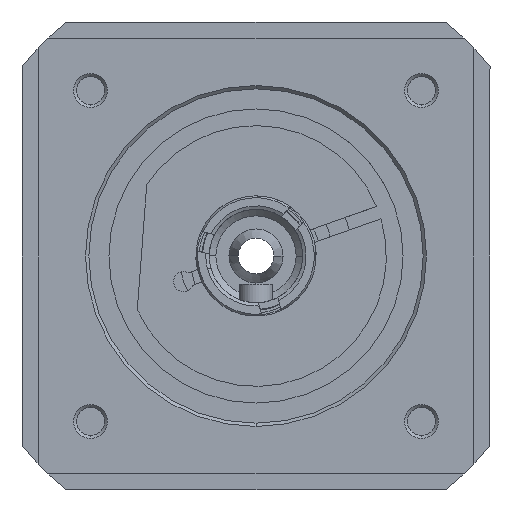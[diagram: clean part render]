
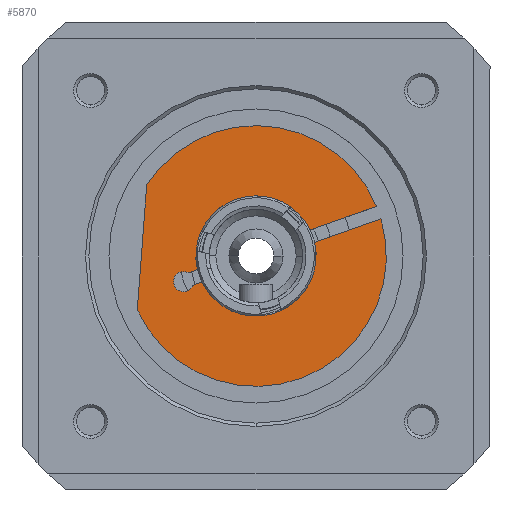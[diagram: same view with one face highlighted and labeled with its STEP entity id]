
A CAD part, front view. The second image highlights one B-rep face of the part: STEP entity #5870.
In plain terms, the highlighted planar face has unit normal (0, -1, 0).
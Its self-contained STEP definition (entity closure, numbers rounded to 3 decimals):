
#121 = ORIENTED_EDGE ( 'NONE', *, *, #6568, .T. ) ;
#208 = CARTESIAN_POINT ( 'NONE',  ( 0., 11.2, 0. ) ) ;
#224 = VERTEX_POINT ( 'NONE', #649 ) ;
#242 = AXIS2_PLACEMENT_3D ( 'NONE', #2686, #7014, #3331 ) ;
#314 = VECTOR ( 'NONE', #6925, 1000. ) ;
#318 = DIRECTION ( 'NONE',  ( 0.943, 0., 0.333 ) ) ;
#462 = DIRECTION ( 'NONE',  ( -0.333, 0., 0.943 ) ) ;
#567 = CARTESIAN_POINT ( 'NONE',  ( -10.344, 11.2, -5.244 ) ) ;
#630 = VERTEX_POINT ( 'NONE', #1442 ) ;
#649 = CARTESIAN_POINT ( 'NONE',  ( -2.997, 11.2, 8.486 ) ) ;
#929 = EDGE_CURVE ( 'NONE', #224, #7308, #2260, .T. ) ;
#938 = ORIENTED_EDGE ( 'NONE', *, *, #4532, .F. ) ;
#1123 = ORIENTED_EDGE ( 'NONE', *, *, #6256, .T. ) ;
#1134 = VERTEX_POINT ( 'NONE', #1387 ) ;
#1146 = CARTESIAN_POINT ( 'NONE',  ( 0., 11.2, 0. ) ) ;
#1199 = CIRCLE ( 'NONE', #5855, 19.5 ) ;
#1277 = VERTEX_POINT ( 'NONE', #3245 ) ;
#1345 = CIRCLE ( 'NONE', #5192, 9. ) ;
#1387 = CARTESIAN_POINT ( 'NONE',  ( 18.03, 11.2, 7.428 ) ) ;
#1395 = ORIENTED_EDGE ( 'NONE', *, *, #7410, .T. ) ;
#1412 = ORIENTED_EDGE ( 'NONE', *, *, #929, .T. ) ;
#1442 = CARTESIAN_POINT ( 'NONE',  ( -11.343, 11.2, -2.415 ) ) ;
#1561 = CARTESIAN_POINT ( 'NONE',  ( 0., 11.2, 0. ) ) ;
#1580 = CARTESIAN_POINT ( 'NONE',  ( 8.101, 11.2, 3.922 ) ) ;
#1584 = ORIENTED_EDGE ( 'NONE', *, *, #3154, .T. ) ;
#1692 = CARTESIAN_POINT ( 'NONE',  ( -9.456, 11.2, -4.4 ) ) ;
#1765 = DIRECTION ( 'NONE',  ( -0.333, 0., 0.943 ) ) ;
#1908 = CARTESIAN_POINT ( 'NONE',  ( 0., 11.2, 0. ) ) ;
#1990 = CARTESIAN_POINT ( 'NONE',  ( -10.122, 11.2, -2.515 ) ) ;
#2118 = CARTESIAN_POINT ( 'NONE',  ( -0.333, 11.2, 0.943 ) ) ;
#2172 = DIRECTION ( 'NONE',  ( -0.333, 0., 0.943 ) ) ;
#2196 = AXIS2_PLACEMENT_3D ( 'NONE', #208, #6377, #7053 ) ;
#2260 = CIRCLE ( 'NONE', #2196, 9. ) ;
#2375 = AXIS2_PLACEMENT_3D ( 'NONE', #3053, #7324, #3682 ) ;
#2519 = DIRECTION ( 'NONE',  ( -0.333, 0., 0.943 ) ) ;
#2686 = CARTESIAN_POINT ( 'NONE',  ( -10.844, 11.2, -3.83 ) ) ;
#3053 = CARTESIAN_POINT ( 'NONE',  ( -10.844, 11.2, -3.83 ) ) ;
#3061 = VECTOR ( 'NONE', #5917, 1000. ) ;
#3154 = EDGE_CURVE ( 'NONE', #6153, #5551, #5300, .T. ) ;
#3245 = CARTESIAN_POINT ( 'NONE',  ( 18.696, 11.2, 5.543 ) ) ;
#3276 = CARTESIAN_POINT ( 'NONE',  ( -8.767, 11.2, -2.036 ) ) ;
#3296 = ORIENTED_EDGE ( 'NONE', *, *, #6241, .F. ) ;
#3331 = DIRECTION ( 'NONE',  ( -0.333, 0., 0.943 ) ) ;
#3355 = CARTESIAN_POINT ( 'NONE',  ( 0., 11.2, 0. ) ) ;
#3392 = CIRCLE ( 'NONE', #7251, 19.5 ) ;
#3401 = DIRECTION ( 'NONE',  ( 0., 1., 0. ) ) ;
#3518 = VERTEX_POINT ( 'NONE', #7461 ) ;
#3651 = VECTOR ( 'NONE', #318, 1000. ) ;
#3663 = CARTESIAN_POINT ( 'NONE',  ( -16.34, 11.2, 10.641 ) ) ;
#3682 = DIRECTION ( 'NONE',  ( -0.333, 0., 0.943 ) ) ;
#3714 = ORIENTED_EDGE ( 'NONE', *, *, #4754, .F. ) ;
#3768 = LINE ( 'NONE', #6350, #314 ) ;
#3882 = VERTEX_POINT ( 'NONE', #6706 ) ;
#3915 = VERTEX_POINT ( 'NONE', #3663 ) ;
#3980 = DIRECTION ( 'NONE',  ( -0.333, 0., 0.943 ) ) ;
#4124 = FACE_OUTER_BOUND ( 'NONE', #4985, .T. ) ;
#4147 = DIRECTION ( 'NONE',  ( 0., 1., 0. ) ) ;
#4188 = LINE ( 'NONE', #7546, #5629 ) ;
#4368 = VERTEX_POINT ( 'NONE', #1692 ) ;
#4385 = VECTOR ( 'NONE', #5182, 1000. ) ;
#4532 = EDGE_CURVE ( 'NONE', #1277, #3882, #1199, .T. ) ;
#4592 = AXIS2_PLACEMENT_3D ( 'NONE', #7085, #3401, #7686 ) ;
#4623 = ORIENTED_EDGE ( 'NONE', *, *, #5658, .F. ) ;
#4729 = LINE ( 'NONE', #7108, #3061 ) ;
#4754 = EDGE_CURVE ( 'NONE', #1134, #7308, #4188, .T. ) ;
#4951 = ORIENTED_EDGE ( 'NONE', *, *, #5105, .F. ) ;
#4985 = EDGE_LOOP ( 'NONE', ( #4951, #7513, #938, #3296, #7519, #4623, #5630, #1123, #121, #1584, #1395, #1412, #3714 ) ) ;
#5105 = EDGE_CURVE ( 'NONE', #3915, #1134, #3392, .T. ) ;
#5182 = DIRECTION ( 'NONE',  ( 0.943, 0., 0.333 ) ) ;
#5192 = AXIS2_PLACEMENT_3D ( 'NONE', #1908, #6246, #2519 ) ;
#5236 = VERTEX_POINT ( 'NONE', #7128 ) ;
#5300 = LINE ( 'NONE', #2118, #3651 ) ;
#5329 = VERTEX_POINT ( 'NONE', #567 ) ;
#5427 = EDGE_CURVE ( 'NONE', #5236, #3518, #1345, .T. ) ;
#5472 = DIRECTION ( 'NONE',  ( 0., 1., 0. ) ) ;
#5551 = VERTEX_POINT ( 'NONE', #3276 ) ;
#5629 = VECTOR ( 'NONE', #6357, 1000. ) ;
#5630 = ORIENTED_EDGE ( 'NONE', *, *, #6846, .T. ) ;
#5658 = EDGE_CURVE ( 'NONE', #4368, #3518, #3768, .T. ) ;
#5855 = AXIS2_PLACEMENT_3D ( 'NONE', #1146, #5472, #1765 ) ;
#5870 = ADVANCED_FACE ( 'NONE', ( #4124 ), #7074, .F. ) ;
#5888 = DIRECTION ( 'NONE',  ( 0., 1., 0. ) ) ;
#5917 = DIRECTION ( 'NONE',  ( -0.076, 0., -0.997 ) ) ;
#6037 = CIRCLE ( 'NONE', #242, 1.5 ) ;
#6085 = CIRCLE ( 'NONE', #6455, 9. ) ;
#6153 = VERTEX_POINT ( 'NONE', #1990 ) ;
#6232 = LINE ( 'NONE', #6986, #4385 ) ;
#6241 = EDGE_CURVE ( 'NONE', #5236, #1277, #6232, .T. ) ;
#6246 = DIRECTION ( 'NONE',  ( 0., 1., 0. ) ) ;
#6256 = EDGE_CURVE ( 'NONE', #5329, #630, #6037, .T. ) ;
#6350 = CARTESIAN_POINT ( 'NONE',  ( 0.333, 11.2, -0.943 ) ) ;
#6357 = DIRECTION ( 'NONE',  ( -0.943, 0., -0.333 ) ) ;
#6377 = DIRECTION ( 'NONE',  ( 0., 1., 0. ) ) ;
#6455 = AXIS2_PLACEMENT_3D ( 'NONE', #7794, #4147, #462 ) ;
#6568 = EDGE_CURVE ( 'NONE', #630, #6153, #7722, .T. ) ;
#6573 = CIRCLE ( 'NONE', #4592, 1.5 ) ;
#6706 = CARTESIAN_POINT ( 'NONE',  ( -17.761, 11.2, -8.049 ) ) ;
#6846 = EDGE_CURVE ( 'NONE', #4368, #5329, #6573, .T. ) ;
#6925 = DIRECTION ( 'NONE',  ( 0.943, 0., 0.333 ) ) ;
#6986 = CARTESIAN_POINT ( 'NONE',  ( 0.333, 11.2, -0.943 ) ) ;
#7014 = DIRECTION ( 'NONE',  ( 0., 1., 0. ) ) ;
#7053 = DIRECTION ( 'NONE',  ( -0.333, 0., 0.943 ) ) ;
#7074 = PLANE ( 'NONE',  #7299 ) ;
#7085 = CARTESIAN_POINT ( 'NONE',  ( -10.844, 11.2, -3.83 ) ) ;
#7108 = CARTESIAN_POINT ( 'NONE',  ( -17.051, 11.2, 1.296 ) ) ;
#7128 = CARTESIAN_POINT ( 'NONE',  ( 8.767, 11.2, 2.036 ) ) ;
#7251 = AXIS2_PLACEMENT_3D ( 'NONE', #3355, #7638, #3980 ) ;
#7299 = AXIS2_PLACEMENT_3D ( 'NONE', #1561, #5888, #2172 ) ;
#7308 = VERTEX_POINT ( 'NONE', #1580 ) ;
#7324 = DIRECTION ( 'NONE',  ( 0., 1., 0. ) ) ;
#7410 = EDGE_CURVE ( 'NONE', #5551, #224, #6085, .T. ) ;
#7461 = CARTESIAN_POINT ( 'NONE',  ( -8.101, 11.2, -3.922 ) ) ;
#7513 = ORIENTED_EDGE ( 'NONE', *, *, #7910, .T. ) ;
#7519 = ORIENTED_EDGE ( 'NONE', *, *, #5427, .T. ) ;
#7546 = CARTESIAN_POINT ( 'NONE',  ( -0.333, 11.2, 0.943 ) ) ;
#7638 = DIRECTION ( 'NONE',  ( 0., 1., 0. ) ) ;
#7686 = DIRECTION ( 'NONE',  ( -0.333, 0., 0.943 ) ) ;
#7722 = CIRCLE ( 'NONE', #2375, 1.5 ) ;
#7794 = CARTESIAN_POINT ( 'NONE',  ( 0., 11.2, 0. ) ) ;
#7910 = EDGE_CURVE ( 'NONE', #3915, #3882, #4729, .T. ) ;
